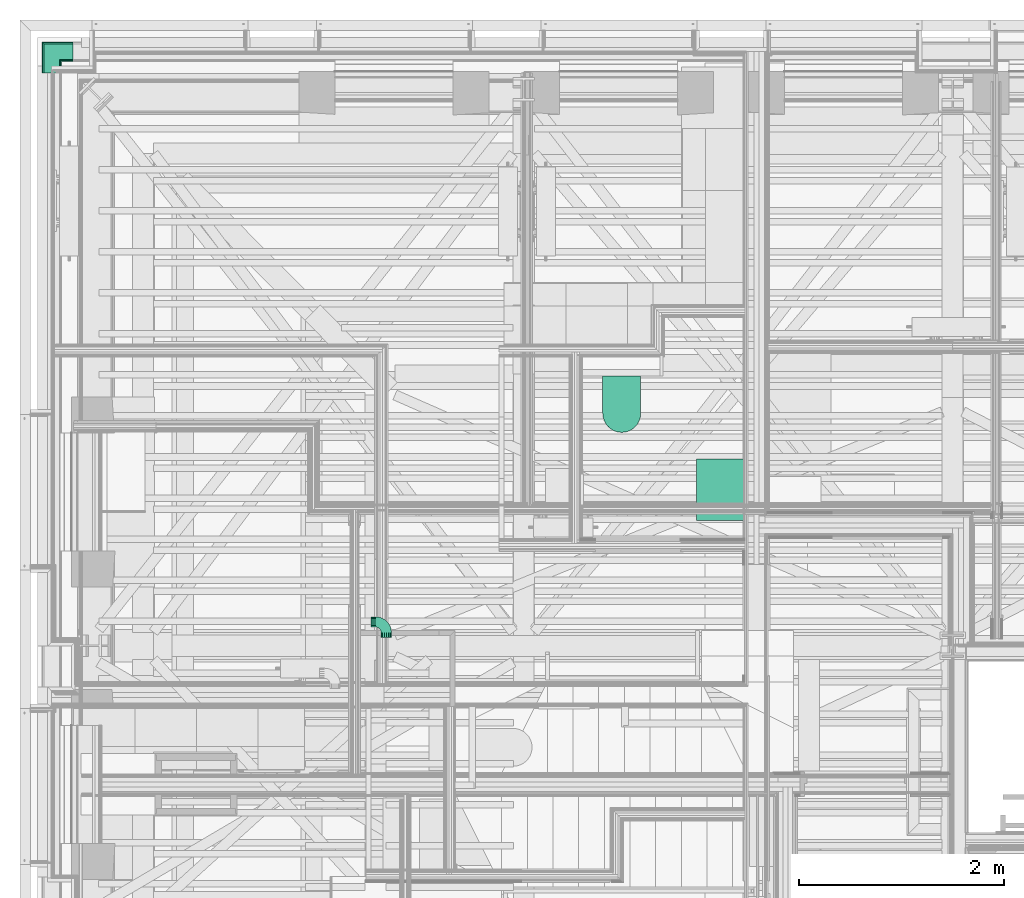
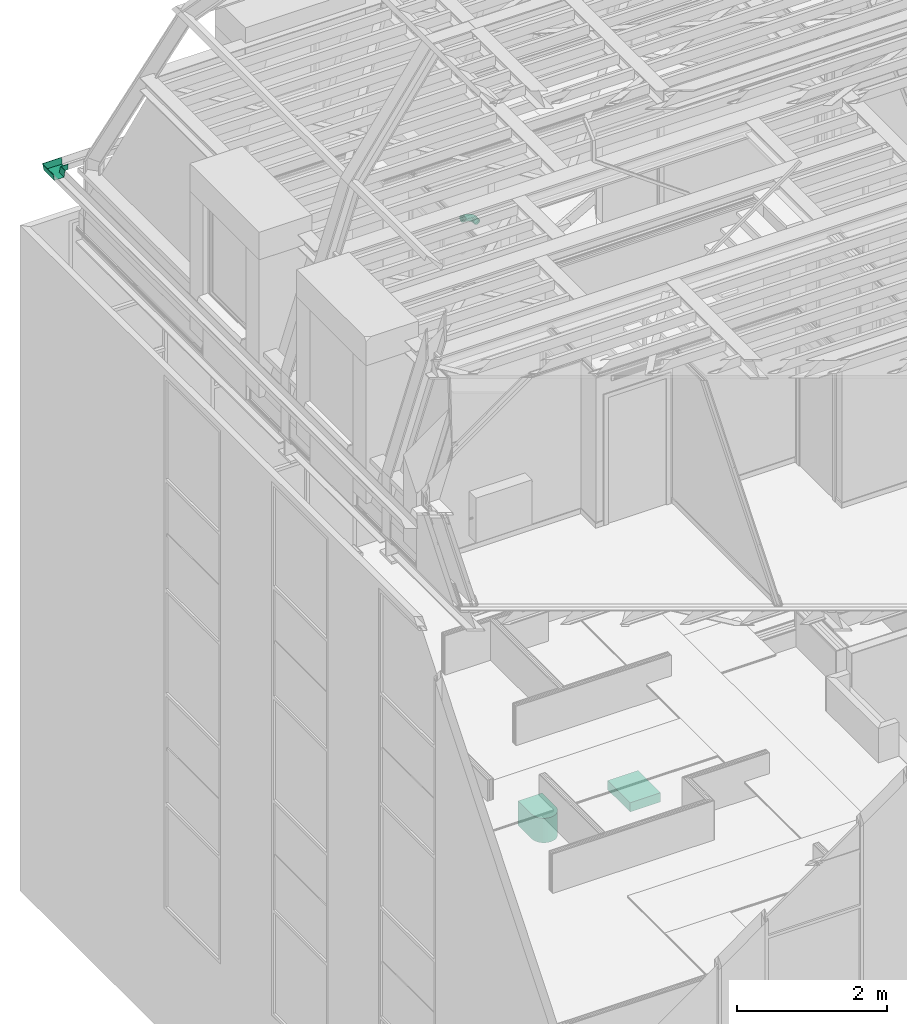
# One storey, part 172 of 183: 2 flow fittings, 2 flow terminals.
"""IFC2X3 building model written with IfcOpenShell, lengths in metres."""

from ifc_helpers import new_model, entity, si_unit, converted_unit, derived_unit, money_unit, direction, frame, origin_with_axes, place, context, subcontext, project, spatial, open_shell, faceted_brep, surface_model, material, type_object, element, save


model = new_model("IFC2X3")

# Units and contexts
model_context = context("Model", 3, precision=1e-05, world=origin_with_axes(), true_north=direction((0.0, 1.0)))
body_context = subcontext(model_context, "Body", "Model", "MODEL_VIEW", scale=1.0)
ifc_project = project(units=[si_unit("LENGTHUNIT", "METRE"), si_unit("AREAUNIT", "SQUARE_METRE"), si_unit("VOLUMEUNIT", "CUBIC_METRE"), si_unit("ABSORBEDDOSEUNIT", "GRAY"), si_unit("AMOUNTOFSUBSTANCEUNIT", "MOLE"), si_unit("DOSEEQUIVALENTUNIT", "SIEVERT"), si_unit("ELECTRICCAPACITANCEUNIT", "FARAD"), si_unit("ELECTRICCHARGEUNIT", "COULOMB"), si_unit("ELECTRICCONDUCTANCEUNIT", "SIEMENS"), si_unit("ELECTRICCURRENTUNIT", "AMPERE"), si_unit("ELECTRICRESISTANCEUNIT", "OHM"), si_unit("ELECTRICVOLTAGEUNIT", "VOLT"), si_unit("ENERGYUNIT", "JOULE"), si_unit("FORCEUNIT", "NEWTON"), si_unit("FREQUENCYUNIT", "HERTZ"), si_unit("ILLUMINANCEUNIT", "LUX"), si_unit("INDUCTANCEUNIT", "HENRY"), si_unit("LUMINOUSFLUXUNIT", "LUMEN"), si_unit("LUMINOUSINTENSITYUNIT", "CANDELA"), si_unit("MAGNETICFLUXDENSITYUNIT", "TESLA"), si_unit("MAGNETICFLUXUNIT", "WEBER"), si_unit("MASSUNIT", "GRAM"), converted_unit("PLANEANGLEUNIT", "degree", entity("IfcReal", 0.0174532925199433), si_unit("PLANEANGLEUNIT", "RADIAN"), dimensions=[0, 0, 0, 0, 0, 0, 0]), si_unit("POWERUNIT", "WATT"), si_unit("PRESSUREUNIT", "PASCAL"), si_unit("RADIOACTIVITYUNIT", "BECQUEREL"), si_unit("SOLIDANGLEUNIT", "STERADIAN"), si_unit("THERMODYNAMICTEMPERATUREUNIT", "KELVIN"), si_unit("TIMEUNIT", "SECOND"), derived_unit("ACCELERATIONUNIT", [(si_unit("LENGTHUNIT", "METRE"), 1), (si_unit("TIMEUNIT", "SECOND"), -2)]), derived_unit("ANGULARVELOCITYUNIT", [(converted_unit("PLANEANGLEUNIT", "degree", entity("IfcReal", 0.0174532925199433), si_unit("PLANEANGLEUNIT", "RADIAN"), dimensions=[0, 0, 0, 0, 0, 0, 0]), 1), (si_unit("TIMEUNIT", "SECOND"), -1)]), derived_unit("CURVATUREUNIT", [(converted_unit("PLANEANGLEUNIT", "degree", entity("IfcReal", 0.0174532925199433), si_unit("PLANEANGLEUNIT", "RADIAN"), dimensions=[0, 0, 0, 0, 0, 0, 0]), 1), (si_unit("LENGTHUNIT", "METRE"), -1)]), derived_unit("DYNAMICVISCOSITYUNIT", [(si_unit("PRESSUREUNIT", "PASCAL"), 1), (si_unit("TIMEUNIT", "SECOND"), 1)]), derived_unit("HEATFLUXDENSITYUNIT", [(si_unit("POWERUNIT", "WATT"), 1), (si_unit("LENGTHUNIT", "METRE"), -2)]), derived_unit("HEATINGVALUEUNIT", [(si_unit("ENERGYUNIT", "JOULE"), 1), (si_unit("MASSUNIT", "GRAM"), -1)]), derived_unit("INTEGERCOUNTRATEUNIT", [(si_unit("TIMEUNIT", "SECOND"), -1)]), derived_unit("IONCONCENTRATIONUNIT", [(si_unit("MASSUNIT", "GRAM"), 1), (si_unit("VOLUMEUNIT", "CUBIC_METRE"), -1)]), derived_unit("ISOTHERMALMOISTURECAPACITYUNIT", [(si_unit("VOLUMEUNIT", "CUBIC_METRE"), 1), (si_unit("MASSUNIT", "GRAM"), -1)]), derived_unit("KINEMATICVISCOSITYUNIT", [(si_unit("AREAUNIT", "SQUARE_METRE"), 1), (si_unit("TIMEUNIT", "SECOND"), -1)]), derived_unit("LINEARFORCEUNIT", [(si_unit("FORCEUNIT", "NEWTON"), 1), (si_unit("LENGTHUNIT", "METRE"), -1)]), derived_unit("LINEARMOMENTUNIT", [(si_unit("FORCEUNIT", "NEWTON"), 1), (si_unit("LENGTHUNIT", "METRE"), -1)]), derived_unit("LINEARSTIFFNESSUNIT", [(si_unit("FORCEUNIT", "NEWTON"), 1), (si_unit("LENGTHUNIT", "METRE"), -1)]), derived_unit("LINEARVELOCITYUNIT", [(si_unit("LENGTHUNIT", "METRE"), 1), (si_unit("TIMEUNIT", "SECOND"), -1)]), derived_unit("LUMINOUSINTENSITYDISTRIBUTIONUNIT", [(si_unit("LUMINOUSINTENSITYUNIT", "CANDELA"), 1), (si_unit("LUMINOUSFLUXUNIT", "LUMEN"), -1)]), derived_unit("MASSDENSITYUNIT", [(si_unit("MASSUNIT", "GRAM"), 1), (si_unit("VOLUMEUNIT", "CUBIC_METRE"), -1)]), derived_unit("MASSFLOWRATEUNIT", [(si_unit("MASSUNIT", "GRAM"), 1), (si_unit("TIMEUNIT", "SECOND"), -1)]), derived_unit("MASSPERLENGTHUNIT", [(si_unit("MASSUNIT", "GRAM"), 1), (si_unit("LENGTHUNIT", "METRE"), -1)]), derived_unit("MODULUSOFELASTICITYUNIT", [(si_unit("FORCEUNIT", "NEWTON"), 1), (si_unit("AREAUNIT", "SQUARE_METRE"), -1)]), derived_unit("MODULUSOFLINEARSUBGRADEREACTIONUNIT", [(si_unit("FORCEUNIT", "NEWTON"), 1), (si_unit("LENGTHUNIT", "METRE"), -2)]), derived_unit("MODULUSOFROTATIONALSUBGRADEREACTIONUNIT", [(si_unit("FORCEUNIT", "NEWTON"), 1), (si_unit("LENGTHUNIT", "METRE"), 1)]), derived_unit("MODULUSOFSUBGRADEREACTIONUNIT", [(si_unit("FORCEUNIT", "NEWTON"), 1), (si_unit("VOLUMEUNIT", "CUBIC_METRE"), -1)]), derived_unit("MOISTUREDIFFUSIVITYUNIT", [(si_unit("VOLUMEUNIT", "CUBIC_METRE"), 1), (si_unit("TIMEUNIT", "SECOND"), -1)]), derived_unit("MOLECULARWEIGHTUNIT", [(si_unit("MASSUNIT", "GRAM"), 1), (si_unit("AMOUNTOFSUBSTANCEUNIT", "MOLE"), -1)]), derived_unit("PLANARFORCEUNIT", [(si_unit("FORCEUNIT", "NEWTON"), 1), (si_unit("LENGTHUNIT", "METRE"), -2)]), derived_unit("ROTATIONALFREQUENCYUNIT", [(si_unit("TIMEUNIT", "SECOND"), -1)]), derived_unit("ROTATIONALMASSUNIT", [(si_unit("MASSUNIT", "GRAM"), 1), (si_unit("LENGTHUNIT", "METRE"), 2)]), derived_unit("ROTATIONALSTIFFNESSUNIT", [(si_unit("FORCEUNIT", "NEWTON"), 1), (si_unit("LENGTHUNIT", "METRE"), 1), (converted_unit("PLANEANGLEUNIT", "degree", entity("IfcReal", 0.0174532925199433), si_unit("PLANEANGLEUNIT", "RADIAN"), dimensions=[0, 0, 0, 0, 0, 0, 0]), -1)]), derived_unit("SECTIONAREAINTEGRALUNIT", [(si_unit("LENGTHUNIT", "METRE"), 5)]), derived_unit("SECTIONMODULUSUNIT", [(si_unit("LENGTHUNIT", "METRE"), 3)]), derived_unit("SHEARMODULUSUNIT", [(si_unit("FORCEUNIT", "NEWTON"), 1), (si_unit("AREAUNIT", "SQUARE_METRE"), -1)]), derived_unit("SOUNDPOWERUNIT", [(si_unit("ENERGYUNIT", "JOULE"), 1), (si_unit("TIMEUNIT", "SECOND"), -1)]), derived_unit("SPECIFICHEATCAPACITYUNIT", [(si_unit("FORCEUNIT", "NEWTON"), 1), (si_unit("MASSUNIT", "GRAM"), -1), (si_unit("THERMODYNAMICTEMPERATUREUNIT", "KELVIN"), -1)]), derived_unit("TEMPERATUREGRADIENTUNIT", [(si_unit("THERMODYNAMICTEMPERATUREUNIT", "KELVIN"), 1), (si_unit("LENGTHUNIT", "METRE"), -1)]), derived_unit("THERMALADMITTANCEUNIT", [(si_unit("POWERUNIT", "WATT"), 1), (si_unit("AREAUNIT", "SQUARE_METRE"), -1), (si_unit("THERMODYNAMICTEMPERATUREUNIT", "KELVIN"), -1)]), derived_unit("THERMALCONDUCTANCEUNIT", [(si_unit("POWERUNIT", "WATT"), 1), (si_unit("LENGTHUNIT", "METRE"), -1), (si_unit("THERMODYNAMICTEMPERATUREUNIT", "KELVIN"), -1)]), derived_unit("THERMALEXPANSIONCOEFFICIENTUNIT", [(si_unit("THERMODYNAMICTEMPERATUREUNIT", "KELVIN"), -1)]), derived_unit("THERMALRESISTANCEUNIT", [(si_unit("AREAUNIT", "SQUARE_METRE"), 1), (si_unit("POWERUNIT", "WATT"), -1)]), derived_unit("THERMALTRANSMITTANCEUNIT", [(si_unit("POWERUNIT", "WATT"), 1), (si_unit("AREAUNIT", "SQUARE_METRE"), -1), (si_unit("THERMODYNAMICTEMPERATUREUNIT", "KELVIN"), -1)]), derived_unit("TORQUEUNIT", [(si_unit("FORCEUNIT", "NEWTON"), 1), (si_unit("LENGTHUNIT", "METRE"), 1)]), derived_unit("VAPORPERMEABILITYUNIT", [(si_unit("MASSUNIT", "GRAM"), 1), (si_unit("TIMEUNIT", "SECOND"), -1)]), derived_unit("VOLUMETRICFLOWRATEUNIT", [(si_unit("VOLUMEUNIT", "CUBIC_METRE"), 1), (si_unit("TIMEUNIT", "SECOND"), -1)]), derived_unit("WARPINGCONSTANTUNIT", [(si_unit("LENGTHUNIT", "METRE"), 6)]), derived_unit("WARPINGMOMENTUNIT", [(si_unit("FORCEUNIT", "NEWTON"), 1), (si_unit("LENGTHUNIT", "METRE"), 2)]), money_unit("GBP")], contexts=[model_context])

# Site, building, storey, space
site_placement = place(None, origin_with_axes())
site = spatial("IfcSite", under=ifc_project, at=site_placement, Name="Site", CompositionType="ELEMENT")
building_placement = place(site_placement, origin_with_axes())
building = spatial("IfcBuilding", under=site, at=building_placement, Name="Building01", CompositionType="ELEMENT")
storey_placement = place(building_placement, frame((0.0, 0.0, 5.15), z_axis=(0.0, 0.0, 1.0), x_axis=(1.0, 0.0, 0.0)))
storey = spatial("IfcBuildingStorey", under=building, at=storey_placement, Name="1F", CompositionType="ELEMENT", Elevation=5.15)
space_1_placement = place(storey_placement, frame((1.009939, 13.890379, 9.81), z_axis=(0.0, 0.0, 1.0), x_axis=(0.0, -1.0, 0.0)))
space_1 = spatial("IfcSpace", under=storey, at=space_1_placement, Name="26", CompositionType="ELEMENT", InteriorOrExteriorSpace="NOTDEFINED")

# Flow fittings
ifc_material_1 = material(Name="M_BSUK_Ventilation")
duct_fitting_type = type_object("IfcDuctFittingType", Name="M-Roundelbow-DefaultRound", PredefinedType="BEND")
placement = place(building_placement, origin_with_axes())
flow_fitting_1_placement = place(placement, frame((3.57, 8.932559, 17.28), z_axis=(1.0, 0.0, 0.0), x_axis=(0.0, 1.0, 0.0)))
element("IfcFlowFitting", 1, at=flow_fitting_1_placement, inside=space_1, type_object=duct_fitting_type, material=ifc_material_1, Name="M-Roundelbow-DefaultRound", ObjectType="M-Roundelbow-DefaultRound", context=body_context, shape_type="SurfaceModel", body=[
    surface_model("IfcShellBasedSurfaceModel", [(0.008112, -0.01349, -0.048784), (0.0, -0.01349, -0.048146), (0.0, 0.0, -0.05), (0.007822, 0.0, -0.050616), (0.016024, -0.01349, -0.050684), (0.015451, 0.0, -0.052447), (0.023541, -0.01349, -0.053798), (0.0227, 0.0, -0.05545), (0.030479, -0.01349, -0.058049), (0.029389, 0.0, -0.059549), (0.036666, -0.01349, -0.063334), (0.035355, 0.0, -0.064645), (0.041951, -0.01349, -0.069521), (0.040451, 0.0, -0.070611), (0.046202, -0.01349, -0.076459), (0.04455, 0.0, -0.0773), (0.049316, -0.01349, -0.083976), (0.047553, 0.0, -0.084549), (0.051216, -0.01349, -0.091888), (0.049384, 0.0, -0.092178), (0.051854, -0.01349, -0.1), (0.05, 0.0, -0.1), (0.00896, -0.025979, -0.043426), (0.0, -0.025979, -0.042721), (0.0177, -0.025979, -0.045524), (0.026004, -0.025979, -0.048964), (0.033668, -0.025979, -0.05366), (0.040502, -0.025979, -0.059498), (0.04634, -0.025979, -0.066332), (0.051036, -0.025979, -0.073996), (0.054476, -0.025979, -0.0823), (0.056574, -0.025979, -0.09104), (0.057279, -0.025979, -0.1), (0.010305, -0.036542, -0.034939), (0.0, -0.036542, -0.034128), (0.020356, -0.036542, -0.037352), (0.029905, -0.036542, -0.041307), (0.038719, -0.036542, -0.046708), (0.046579, -0.036542, -0.053421), (0.053292, -0.036542, -0.061281), (0.058693, -0.036542, -0.070095), (0.062648, -0.036542, -0.079644), (0.065061, -0.036542, -0.089695), (0.065872, -0.036542, -0.1), (0.012045, -0.044394, -0.023951), (0.0, -0.044394, -0.023003), (0.023793, -0.044394, -0.026772), (0.034956, -0.044394, -0.031395), (0.045258, -0.044394, -0.037708), (0.054445, -0.044394, -0.045555), (0.062292, -0.044394, -0.054742), (0.068605, -0.044394, -0.065044), (0.073228, -0.044394, -0.076207), (0.076049, -0.044394, -0.087955), (0.076997, -0.044394, -0.1), (0.014052, -0.048954, -0.011279), (0.0, -0.048954, -0.010173), (0.027758, -0.048954, -0.014569), (0.040781, -0.048954, -0.019963), (0.052799, -0.048954, -0.027328), (0.063517, -0.048954, -0.036483), (0.072672, -0.048954, -0.047201), (0.080037, -0.048954, -0.059219), (0.085431, -0.048954, -0.072242), (0.088721, -0.048954, -0.085948), (0.089827, -0.048954, -0.1), (0.016177, -0.049883, 0.002139), (0.0, -0.049883, 0.003412), (0.031956, -0.049883, -0.001649), (0.046948, -0.049883, -0.007859), (0.060784, -0.049883, -0.016338), (0.073123, -0.049883, -0.026877), (0.083662, -0.049883, -0.039216), (0.092141, -0.049883, -0.053052), (0.098351, -0.049883, -0.068044), (0.102139, -0.049883, -0.083823), (0.103412, -0.049883, -0.1), (0.018263, -0.047113, 0.015307), (0.0, -0.047113, 0.016744), (0.036076, -0.047113, 0.01103), (0.053001, -0.047113, 0.00402), (0.06862, -0.047113, -0.005552), (0.08255, -0.047113, -0.01745), (0.094448, -0.047113, -0.03138), (0.10402, -0.047113, -0.046999), (0.11103, -0.047113, -0.063924), (0.115307, -0.047113, -0.081737), (0.116744, -0.047113, -0.1), (0.020154, -0.040848, 0.027248), (0.0, -0.040848, 0.028834), (0.039812, -0.040848, 0.022528), (0.058489, -0.040848, 0.014792), (0.075727, -0.040848, 0.004229), (0.091099, -0.040848, -0.008901), (0.104229, -0.040848, -0.024273), (0.114792, -0.040848, -0.041511), (0.122528, -0.040848, -0.060188), (0.127248, -0.040848, -0.079846), (0.128834, -0.040848, -0.1), (0.021711, -0.031554, 0.037077), (0.0, -0.031554, 0.038786), (0.042887, -0.031554, 0.031993), (0.063007, -0.031554, 0.023659), (0.081576, -0.031554, 0.01228), (0.098136, -0.031554, -0.001864), (0.11228, -0.031554, -0.018424), (0.123659, -0.031554, -0.036993), (0.131993, -0.031554, -0.057113), (0.137077, -0.031554, -0.078289), (0.138786, -0.031554, -0.1), (0.022818, -0.01992, 0.044065), (0.0, -0.01992, 0.045861), (0.045073, -0.01992, 0.038722), (0.066219, -0.01992, 0.029963), (0.085735, -0.01992, 0.018004), (0.103139, -0.01992, 0.003139), (0.118004, -0.01992, -0.014265), (0.129963, -0.01992, -0.033781), (0.138722, -0.01992, -0.054927), (0.144065, -0.01992, -0.077182), (0.145861, -0.01992, -0.1), (0.023392, -0.006808, 0.047693), (0.0, -0.006808, 0.049534), (0.046209, -0.006808, 0.042216), (0.067887, -0.006808, 0.033236), (0.087894, -0.006808, 0.020976), (0.105737, -0.006808, 0.005737), (0.120976, -0.006808, -0.012106), (0.133236, -0.006808, -0.032113), (0.142216, -0.006808, -0.053791), (0.147693, -0.006808, -0.076608), (0.149534, -0.006808, -0.1), (0.023392, 0.006808, 0.047693), (0.0, 0.006808, 0.049534), (0.046209, 0.006808, 0.042216), (0.067887, 0.006808, 0.033236), (0.087894, 0.006808, 0.020976), (0.105737, 0.006808, 0.005737), (0.120976, 0.006808, -0.012106), (0.133236, 0.006808, -0.032113), (0.142216, 0.006808, -0.053791), (0.147693, 0.006808, -0.076608), (0.149534, 0.006808, -0.1), (0.022818, 0.01992, 0.044065), (0.0, 0.01992, 0.045861), (0.045073, 0.01992, 0.038722), (0.066219, 0.01992, 0.029963), (0.085735, 0.01992, 0.018004), (0.103139, 0.01992, 0.003139), (0.118004, 0.01992, -0.014265), (0.129963, 0.01992, -0.033781), (0.138722, 0.01992, -0.054927), (0.144065, 0.01992, -0.077182), (0.145861, 0.01992, -0.1), (0.021711, 0.031554, 0.037077), (0.0, 0.031554, 0.038786), (0.042887, 0.031554, 0.031993), (0.063007, 0.031554, 0.023659), (0.081576, 0.031554, 0.01228), (0.098136, 0.031554, -0.001864), (0.11228, 0.031554, -0.018424), (0.123659, 0.031554, -0.036993), (0.131993, 0.031554, -0.057113), (0.137077, 0.031554, -0.078289), (0.138786, 0.031554, -0.1), (0.020154, 0.040848, 0.027248), (0.0, 0.040848, 0.028834), (0.039812, 0.040848, 0.022528), (0.058489, 0.040848, 0.014792), (0.075727, 0.040848, 0.004229), (0.091099, 0.040848, -0.008901), (0.104229, 0.040848, -0.024273), (0.114792, 0.040848, -0.041511), (0.122528, 0.040848, -0.060188), (0.127248, 0.040848, -0.079846), (0.128834, 0.040848, -0.1), (0.018263, 0.047113, 0.015307), (0.0, 0.047113, 0.016744), (0.036076, 0.047113, 0.01103), (0.053001, 0.047113, 0.00402), (0.06862, 0.047113, -0.005552), (0.08255, 0.047113, -0.01745), (0.094448, 0.047113, -0.03138), (0.10402, 0.047113, -0.046999), (0.11103, 0.047113, -0.063924), (0.115307, 0.047113, -0.081737), (0.116744, 0.047113, -0.1), (0.016177, 0.049883, 0.002139), (0.0, 0.049883, 0.003412), (0.031956, 0.049883, -0.001649), (0.046948, 0.049883, -0.007859), (0.060784, 0.049883, -0.016338), (0.073123, 0.049883, -0.026877), (0.083662, 0.049883, -0.039216), (0.092141, 0.049883, -0.053052), (0.098351, 0.049883, -0.068044), (0.102139, 0.049883, -0.083823), (0.103412, 0.049883, -0.1), (0.014052, 0.048954, -0.011279), (0.0, 0.048954, -0.010173), (0.027758, 0.048954, -0.014569), (0.040781, 0.048954, -0.019963), (0.052799, 0.048954, -0.027328), (0.063517, 0.048954, -0.036483), (0.072672, 0.048954, -0.047201), (0.080037, 0.048954, -0.059219), (0.085431, 0.048954, -0.072242), (0.088721, 0.048954, -0.085948), (0.089827, 0.048954, -0.1), (0.012045, 0.044394, -0.023951), (0.0, 0.044394, -0.023003), (0.023793, 0.044394, -0.026772), (0.034956, 0.044394, -0.031395), (0.045258, 0.044394, -0.037708), (0.054445, 0.044394, -0.045555), (0.062292, 0.044394, -0.054742), (0.068605, 0.044394, -0.065044), (0.073228, 0.044394, -0.076207), (0.076049, 0.044394, -0.087955), (0.076997, 0.044394, -0.1), (0.010305, 0.036542, -0.034939), (0.0, 0.036542, -0.034128), (0.020356, 0.036542, -0.037352), (0.029905, 0.036542, -0.041307), (0.038719, 0.036542, -0.046708), (0.046579, 0.036542, -0.053421), (0.053292, 0.036542, -0.061281), (0.058693, 0.036542, -0.070095), (0.062648, 0.036542, -0.079644), (0.065061, 0.036542, -0.089695), (0.065872, 0.036542, -0.1), (0.00896, 0.025979, -0.043426), (0.0, 0.025979, -0.042721), (0.0177, 0.025979, -0.045524), (0.026004, 0.025979, -0.048964), (0.033668, 0.025979, -0.05366), (0.040502, 0.025979, -0.059498), (0.04634, 0.025979, -0.066332), (0.051036, 0.025979, -0.073996), (0.054476, 0.025979, -0.0823), (0.056574, 0.025979, -0.09104), (0.057279, 0.025979, -0.1), (0.008112, 0.01349, -0.048784), (0.0, 0.01349, -0.048146), (0.016024, 0.01349, -0.050684), (0.023541, 0.01349, -0.053798), (0.030479, 0.01349, -0.058049), (0.036666, 0.01349, -0.063334), (0.041951, 0.01349, -0.069521), (0.046202, 0.01349, -0.076459), (0.049316, 0.01349, -0.083976), (0.051216, 0.01349, -0.091888), (0.051854, 0.01349, -0.1), (-0.05, 0.0, -0.05), (0.0, -0.019134, -0.046194), (-0.05, -0.019134, -0.046194), (0.0, -0.035355, -0.035355), (-0.05, -0.035355, -0.035355), (0.0, -0.046194, -0.019134), (-0.05, -0.046194, -0.019134), (0.0, -0.05, 0.0), (-0.05, -0.05, 0.0), (0.0, -0.046194, 0.019134), (-0.05, -0.046194, 0.019134), (0.0, -0.035355, 0.035355), (-0.05, -0.035355, 0.035355), (0.0, -0.019134, 0.046194), (-0.05, -0.019134, 0.046194), (0.0, 0.0, 0.05), (-0.05, 0.0, 0.05), (0.0, 0.019134, 0.046194), (-0.05, 0.019134, 0.046194), (0.0, 0.035355, 0.035355), (-0.05, 0.035355, 0.035355), (0.0, 0.046194, 0.019134), (-0.05, 0.046194, 0.019134), (0.0, 0.05, 0.0), (-0.05, 0.05, 0.0), (0.0, 0.046194, -0.019134), (-0.05, 0.046194, -0.019134), (0.0, 0.035355, -0.035355), (-0.05, 0.035355, -0.035355), (0.0, 0.019134, -0.046194), (-0.05, 0.019134, -0.046194), (0.05, 0.0, -0.15), (0.053806, 0.019134, -0.1), (0.053806, 0.019134, -0.15), (0.064645, 0.035355, -0.1), (0.064645, 0.035355, -0.15), (0.080866, 0.046194, -0.1), (0.080866, 0.046194, -0.15), (0.1, 0.05, -0.1), (0.1, 0.05, -0.15), (0.119134, 0.046194, -0.1), (0.119134, 0.046194, -0.15), (0.135355, 0.035355, -0.1), (0.135355, 0.035355, -0.15), (0.146194, 0.019134, -0.1), (0.146194, 0.019134, -0.15), (0.15, 0.0, -0.1), (0.15, 0.0, -0.15), (0.146194, -0.019134, -0.1), (0.146194, -0.019134, -0.15), (0.135355, -0.035355, -0.1), (0.135355, -0.035355, -0.15), (0.119134, -0.046194, -0.1), (0.119134, -0.046194, -0.15), (0.1, -0.05, -0.1), (0.1, -0.05, -0.15), (0.080866, -0.046194, -0.1), (0.080866, -0.046194, -0.15), (0.064645, -0.035355, -0.1), (0.064645, -0.035355, -0.15), (0.053806, -0.019134, -0.1), (0.053806, -0.019134, -0.15)], [open_shell([[[0, 1, 2, 3]], [[4, 0, 3, 5]], [[6, 4, 5, 7]], [[8, 6, 7, 9]], [[10, 8, 9, 11]], [[12, 10, 11, 13]], [[14, 12, 13, 15]], [[16, 14, 15, 17]], [[18, 16, 17, 19]], [[20, 18, 19, 21]], [[22, 23, 1, 0]], [[24, 22, 0, 4]], [[25, 24, 4, 6]], [[26, 25, 6, 8]], [[27, 26, 8, 10]], [[28, 27, 10, 12]], [[29, 28, 12, 14]], [[30, 29, 14, 16]], [[31, 30, 16, 18]], [[32, 31, 18, 20]], [[33, 34, 23, 22]], [[35, 33, 22, 24]], [[36, 35, 24, 25]], [[37, 36, 25, 26]], [[38, 37, 26, 27]], [[39, 38, 27, 28]], [[40, 39, 28, 29]], [[41, 40, 29, 30]], [[42, 41, 30, 31]], [[43, 42, 31, 32]], [[44, 45, 34, 33]], [[46, 44, 33, 35]], [[47, 46, 35, 36]], [[48, 47, 36, 37]], [[49, 48, 37, 38]], [[50, 49, 38, 39]], [[51, 50, 39, 40]], [[52, 51, 40, 41]], [[53, 52, 41, 42]], [[54, 53, 42, 43]], [[55, 56, 45, 44]], [[57, 55, 44, 46]], [[58, 57, 46, 47]], [[59, 58, 47, 48]], [[60, 59, 48, 49]], [[61, 60, 49, 50]], [[62, 61, 50, 51]], [[63, 62, 51, 52]], [[64, 63, 52, 53]], [[65, 64, 53, 54]], [[66, 67, 56, 55]], [[68, 66, 55, 57]], [[69, 68, 57, 58]], [[70, 69, 58, 59]], [[71, 70, 59, 60]], [[72, 71, 60, 61]], [[73, 72, 61, 62]], [[74, 73, 62, 63]], [[75, 74, 63, 64]], [[76, 75, 64, 65]], [[77, 78, 67, 66]], [[79, 77, 66, 68]], [[80, 79, 68, 69]], [[81, 80, 69, 70]], [[82, 81, 70, 71]], [[83, 82, 71, 72]], [[84, 83, 72, 73]], [[85, 84, 73, 74]], [[86, 85, 74, 75]], [[87, 86, 75, 76]], [[88, 89, 78, 77]], [[90, 88, 77, 79]], [[91, 90, 79, 80]], [[92, 91, 80, 81]], [[93, 92, 81, 82]], [[94, 93, 82, 83]], [[95, 94, 83, 84]], [[96, 95, 84, 85]], [[97, 96, 85, 86]], [[98, 97, 86, 87]], [[99, 100, 89, 88]], [[101, 99, 88, 90]], [[102, 101, 90, 91]], [[103, 102, 91, 92]], [[104, 103, 92, 93]], [[105, 104, 93, 94]], [[106, 105, 94, 95]], [[107, 106, 95, 96]], [[108, 107, 96, 97]], [[109, 108, 97, 98]], [[110, 111, 100, 99]], [[112, 110, 99, 101]], [[113, 112, 101, 102]], [[114, 113, 102, 103]], [[115, 114, 103, 104]], [[116, 115, 104, 105]], [[117, 116, 105, 106]], [[118, 117, 106, 107]], [[119, 118, 107, 108]], [[120, 119, 108, 109]], [[121, 122, 111, 110]], [[123, 121, 110, 112]], [[124, 123, 112, 113]], [[125, 124, 113, 114]], [[126, 125, 114, 115]], [[127, 126, 115, 116]], [[128, 127, 116, 117]], [[129, 128, 117, 118]], [[130, 129, 118, 119]], [[131, 130, 119, 120]], [[132, 133, 122, 121]], [[134, 132, 121, 123]], [[135, 134, 123, 124]], [[136, 135, 124, 125]], [[137, 136, 125, 126]], [[138, 137, 126, 127]], [[139, 138, 127, 128]], [[140, 139, 128, 129]], [[141, 140, 129, 130]], [[142, 141, 130, 131]], [[143, 144, 133, 132]], [[145, 143, 132, 134]], [[146, 145, 134, 135]], [[147, 146, 135, 136]], [[148, 147, 136, 137]], [[149, 148, 137, 138]], [[150, 149, 138, 139]], [[151, 150, 139, 140]], [[152, 151, 140, 141]], [[153, 152, 141, 142]], [[154, 155, 144, 143]], [[156, 154, 143, 145]], [[157, 156, 145, 146]], [[158, 157, 146, 147]], [[159, 158, 147, 148]], [[160, 159, 148, 149]], [[161, 160, 149, 150]], [[162, 161, 150, 151]], [[163, 162, 151, 152]], [[164, 163, 152, 153]], [[165, 166, 155, 154]], [[167, 165, 154, 156]], [[168, 167, 156, 157]], [[169, 168, 157, 158]], [[170, 169, 158, 159]], [[171, 170, 159, 160]], [[172, 171, 160, 161]], [[173, 172, 161, 162]], [[174, 173, 162, 163]], [[175, 174, 163, 164]], [[176, 177, 166, 165]], [[178, 176, 165, 167]], [[179, 178, 167, 168]], [[180, 179, 168, 169]], [[181, 180, 169, 170]], [[182, 181, 170, 171]], [[183, 182, 171, 172]], [[184, 183, 172, 173]], [[185, 184, 173, 174]], [[186, 185, 174, 175]], [[187, 188, 177, 176]], [[189, 187, 176, 178]], [[190, 189, 178, 179]], [[191, 190, 179, 180]], [[192, 191, 180, 181]], [[193, 192, 181, 182]], [[194, 193, 182, 183]], [[195, 194, 183, 184]], [[196, 195, 184, 185]], [[197, 196, 185, 186]], [[198, 199, 188, 187]], [[200, 198, 187, 189]], [[201, 200, 189, 190]], [[202, 201, 190, 191]], [[203, 202, 191, 192]], [[204, 203, 192, 193]], [[205, 204, 193, 194]], [[206, 205, 194, 195]], [[207, 206, 195, 196]], [[208, 207, 196, 197]], [[209, 210, 199, 198]], [[211, 209, 198, 200]], [[212, 211, 200, 201]], [[213, 212, 201, 202]], [[214, 213, 202, 203]], [[215, 214, 203, 204]], [[216, 215, 204, 205]], [[217, 216, 205, 206]], [[218, 217, 206, 207]], [[219, 218, 207, 208]], [[220, 221, 210, 209]], [[222, 220, 209, 211]], [[223, 222, 211, 212]], [[224, 223, 212, 213]], [[225, 224, 213, 214]], [[226, 225, 214, 215]], [[227, 226, 215, 216]], [[228, 227, 216, 217]], [[229, 228, 217, 218]], [[230, 229, 218, 219]], [[231, 232, 221, 220]], [[233, 231, 220, 222]], [[234, 233, 222, 223]], [[235, 234, 223, 224]], [[236, 235, 224, 225]], [[237, 236, 225, 226]], [[238, 237, 226, 227]], [[239, 238, 227, 228]], [[240, 239, 228, 229]], [[241, 240, 229, 230]], [[242, 243, 232, 231]], [[244, 242, 231, 233]], [[245, 244, 233, 234]], [[246, 245, 234, 235]], [[247, 246, 235, 236]], [[248, 247, 236, 237]], [[249, 248, 237, 238]], [[250, 249, 238, 239]], [[251, 250, 239, 240]], [[252, 251, 240, 241]], [[3, 2, 243, 242]], [[5, 3, 242, 244]], [[7, 5, 244, 245]], [[9, 7, 245, 246]], [[11, 9, 246, 247]], [[13, 11, 247, 248]], [[15, 13, 248, 249]], [[17, 15, 249, 250]], [[19, 17, 250, 251]], [[21, 19, 251, 252]], [[253, 2, 254, 255]], [[255, 254, 256, 257]], [[257, 256, 258, 259]], [[259, 258, 260, 261]], [[261, 260, 262, 263]], [[263, 262, 264, 265]], [[265, 264, 266, 267]], [[267, 266, 268, 269]], [[269, 268, 270, 271]], [[271, 270, 272, 273]], [[273, 272, 274, 275]], [[275, 274, 276, 277]], [[277, 276, 278, 279]], [[279, 278, 280, 281]], [[281, 280, 282, 283]], [[283, 282, 2, 253]], [[284, 21, 285, 286]], [[286, 285, 287, 288]], [[288, 287, 289, 290]], [[290, 289, 291, 292]], [[292, 291, 293, 294]], [[294, 293, 295, 296]], [[296, 295, 297, 298]], [[298, 297, 299, 300]], [[300, 299, 301, 302]], [[302, 301, 303, 304]], [[304, 303, 305, 306]], [[306, 305, 307, 308]], [[308, 307, 309, 310]], [[310, 309, 311, 312]], [[312, 311, 313, 314]], [[314, 313, 21, 284]]])]),
])
ifc_material_2 = material(Name="A_BSUK_RainwaterDrainageSystems")
pipe_fitting_type = type_object("IfcPipeFittingType", Name="A-RainwaterDrainageSystems-GutterCorner", PredefinedType="NOTDEFINED")
flow_fitting_2_placement = place(storey_placement, frame((0.514346, 14.385653, 10.629268), z_axis=(0.0, 0.0, 1.0), x_axis=(1.0, 0.0, 0.0)))
element("IfcFlowFitting", 2, at=flow_fitting_2_placement, inside=storey, type_object=pipe_fitting_type, material=ifc_material_2, Name="A-RainwaterDrainageSystems-GutterCorner", ObjectType="A-RainwaterDrainageSystems-GutterCorner", context=body_context, shape_type="Brep", body=[
    faceted_brep([(-0.111195, 1e-06, 0.100732), (-0.118241, 1e-06, 0.100732), (-0.131294, 1e-06, 0.001588), (-0.279902, 1e-06, 0.001588), (-0.292954, 1e-06, 0.100732), (-0.3, 1e-06, 0.100732), (-0.3, 1e-06, 0.099145), (-0.294346, 1e-06, 0.099145), (-0.281294, 1e-06, 0.0), (-0.129902, 1e-06, 0.0), (-0.116849, 1e-06, 0.099145), (-0.111195, 1e-06, 0.099145), (0.0, 0.111195, 0.099145), (0.0, 0.116849, 0.099145), (0.0, 0.129902, 0.0), (0.0, 0.281294, 0.0), (0.0, 0.294347, 0.099145), (0.0, 0.300001, 0.099145), (0.0, 0.300001, 0.100732), (0.0, 0.292954, 0.100732), (0.0, 0.279902, 0.001588), (0.0, 0.131294, 0.001588), (0.0, 0.118241, 0.100732), (0.0, 0.111195, 0.100732), (-0.111195, 0.111195, 0.099145), (-0.111195, 0.111195, 0.100732), (-0.118241, 0.118241, 0.100732), (-0.131294, 0.131294, 0.001588), (-0.279902, 0.279902, 0.001588), (-0.292954, 0.292954, 0.100732), (-0.3, 0.300001, 0.100732), (-0.3, 0.300001, 0.099145), (-0.294346, 0.294347, 0.099145), (-0.281294, 0.281294, 0.0), (-0.129902, 0.129902, 0.0), (-0.116849, 0.116849, 0.099145)], [[[0, 1, 2, 3, 4, 5, 6, 7, 8, 9, 10, 11]], [[12, 13, 14, 15, 16, 17, 18, 19, 20, 21, 22, 23]], [[24, 12, 23, 25]], [[0, 25, 23, 22, 26, 1]], [[26, 22, 21, 27]], [[1, 26, 27, 2]], [[2, 27, 21, 20, 28, 3]], [[28, 20, 19, 29]], [[3, 28, 29, 4]], [[4, 29, 19, 18, 30, 5]], [[30, 18, 17, 31]], [[5, 30, 31, 6]], [[6, 31, 17, 16, 32, 7]], [[32, 16, 15, 33]], [[7, 32, 33, 8]], [[8, 33, 15, 14, 34, 9]], [[34, 14, 13, 35]], [[9, 34, 35, 10]], [[10, 35, 13, 12, 24, 11]], [[11, 24, 25, 0]]]),
])

# Space
space_2_placement = place(storey_placement, frame((7.064669, 14.582, 0.017975), z_axis=(0.0, 0.0, 1.0), x_axis=(-1.0, 0.0, 0.0)))
space_2 = spatial("IfcSpace", under=storey, at=space_2_placement, Name="07", CompositionType="ELEMENT", InteriorOrExteriorSpace="NOTDEFINED")

# Flow terminals
sanitary_terminal_type_1 = type_object("IfcSanitaryTerminalType", Name="SHE_A-Sink_47x60", PredefinedType="NOTDEFINED")
flow_terminal_1_placement = place(storey_placement, frame((6.829668, 10.32326, 0.825), z_axis=(0.0, 0.0, 1.0), x_axis=(1.0, 0.0, 0.0)))
element("IfcFlowTerminal", 3, at=flow_terminal_1_placement, inside=space_2, type_object=sanitary_terminal_type_1, Name="07", ObjectType="SHE_A-Sink_47x60", context=body_context, shape_type="Brep", body=[
    faceted_brep([(-0.235, 0.3, -0.075), (-0.235, 0.3, 0.075), (0.235, 0.3, 0.075), (0.235, 0.3, -0.075), (-0.235, -0.3, -0.075), (-0.235, -0.3, 0.075), (0.235, -0.3, -0.075), (0.235, -0.3, 0.075)], [[[0, 1, 2, 3]], [[4, 5, 1, 0]], [[6, 7, 5, 4]], [[3, 2, 7, 6]], [[1, 5, 7, 2]], [[3, 6, 4, 0]]]),
])
sanitary_terminal_type_2 = type_object("IfcSanitaryTerminalType", Name="SHE_A-Toilet_base", PredefinedType="NOTDEFINED")
flow_terminal_2_placement = place(storey_placement, frame((5.864669, 11.155667, 0.2), z_axis=(0.0, 0.0, 1.0), x_axis=(0.0, 1.0, 0.0)))
element("IfcFlowTerminal", 4, at=flow_terminal_2_placement, inside=space_2, type_object=sanitary_terminal_type_2, Name="07", ObjectType="SHE_A-Toilet_base", context=body_context, shape_type="Brep", body=[
    faceted_brep([(0.275003, 0.185008, -0.2), (0.275003, -0.185009, -0.2), (-0.089995, -0.185009, -0.2), (-0.126088, -0.181454, -0.2), (-0.160795, -0.170926, -0.2), (-0.19278, -0.153829, -0.2), (-0.220816, -0.130821, -0.2), (-0.243824, -0.102785, -0.2), (-0.26092, -0.0708, -0.2), (-0.271448, -0.036093, -0.2), (-0.275003, 0.0, -0.2), (-0.271448, 0.036093, -0.2), (-0.26092, 0.0708, -0.2), (-0.243824, 0.102785, -0.2), (-0.220816, 0.130821, -0.2), (-0.19278, 0.153829, -0.2), (-0.160795, 0.170926, -0.2), (-0.126088, 0.181454, -0.2), (-0.089995, 0.185008, -0.2), (-0.089995, 0.185008, 0.2), (-0.126088, 0.181454, 0.2), (-0.160795, 0.170926, 0.2), (-0.19278, 0.153829, 0.2), (-0.220816, 0.130821, 0.2), (-0.243824, 0.102785, 0.2), (-0.26092, 0.0708, 0.2), (-0.271448, 0.036093, 0.2), (-0.275003, 0.0, 0.2), (-0.271448, -0.036093, 0.2), (-0.26092, -0.0708, 0.2), (-0.243824, -0.102785, 0.2), (-0.220816, -0.130821, 0.2), (-0.19278, -0.153829, 0.2), (-0.160795, -0.170926, 0.2), (-0.126088, -0.181454, 0.2), (-0.089995, -0.185009, 0.2), (0.275003, -0.185009, 0.2), (0.275003, 0.185008, 0.2)], [[[0, 1, 2, 3, 4, 5, 6, 7, 8, 9, 10, 11, 12, 13, 14, 15, 16, 17, 18]], [[19, 20, 21, 22, 23, 24, 25, 26, 27, 28, 29, 30, 31, 32, 33, 34, 35, 36, 37]], [[2, 35, 34, 3]], [[3, 34, 33, 4]], [[4, 33, 32, 5]], [[5, 32, 31, 6]], [[6, 31, 30, 7]], [[7, 30, 29, 8]], [[8, 29, 28, 9]], [[9, 28, 27, 10]], [[10, 27, 26, 11]], [[11, 26, 25, 12]], [[12, 25, 24, 13]], [[13, 24, 23, 14]], [[14, 23, 22, 15]], [[15, 22, 21, 16]], [[16, 21, 20, 17]], [[17, 20, 19, 18]], [[1, 36, 35, 2]], [[0, 37, 36, 1]], [[18, 19, 37, 0]]]),
])

save(model, "model.ifc")
